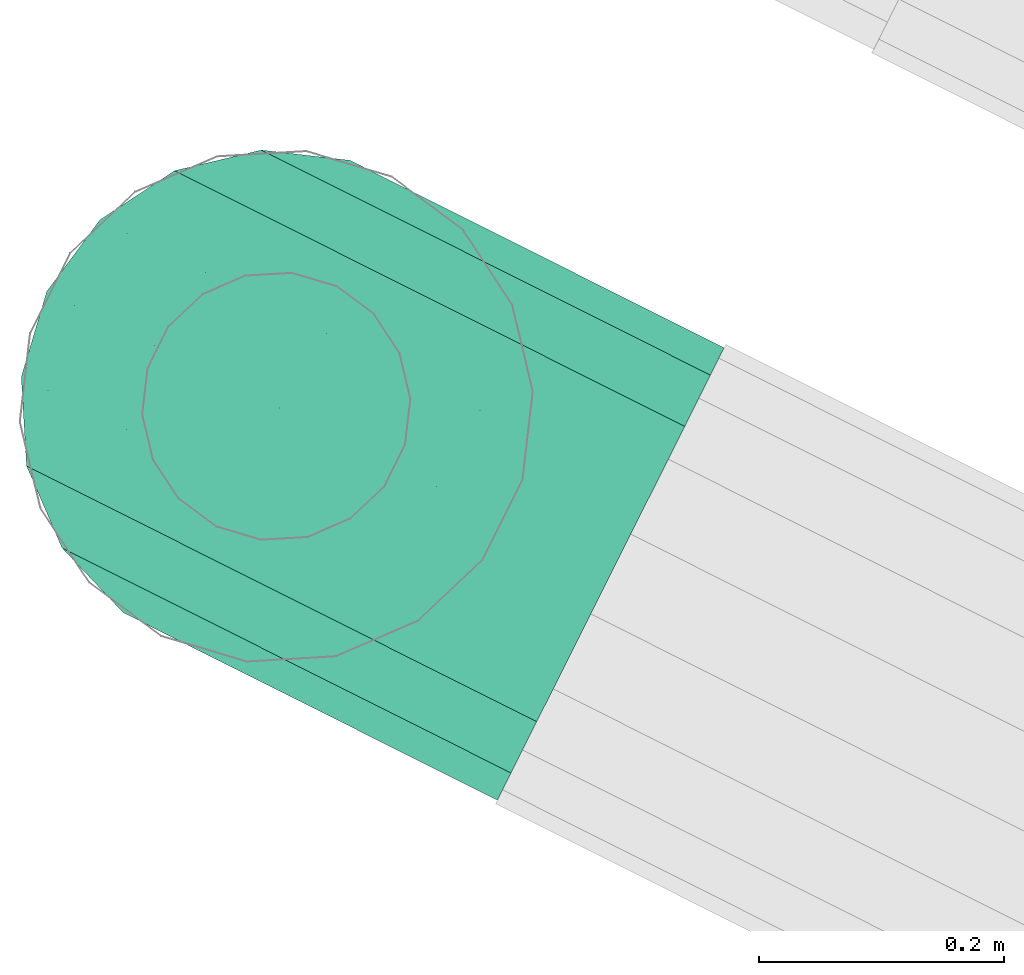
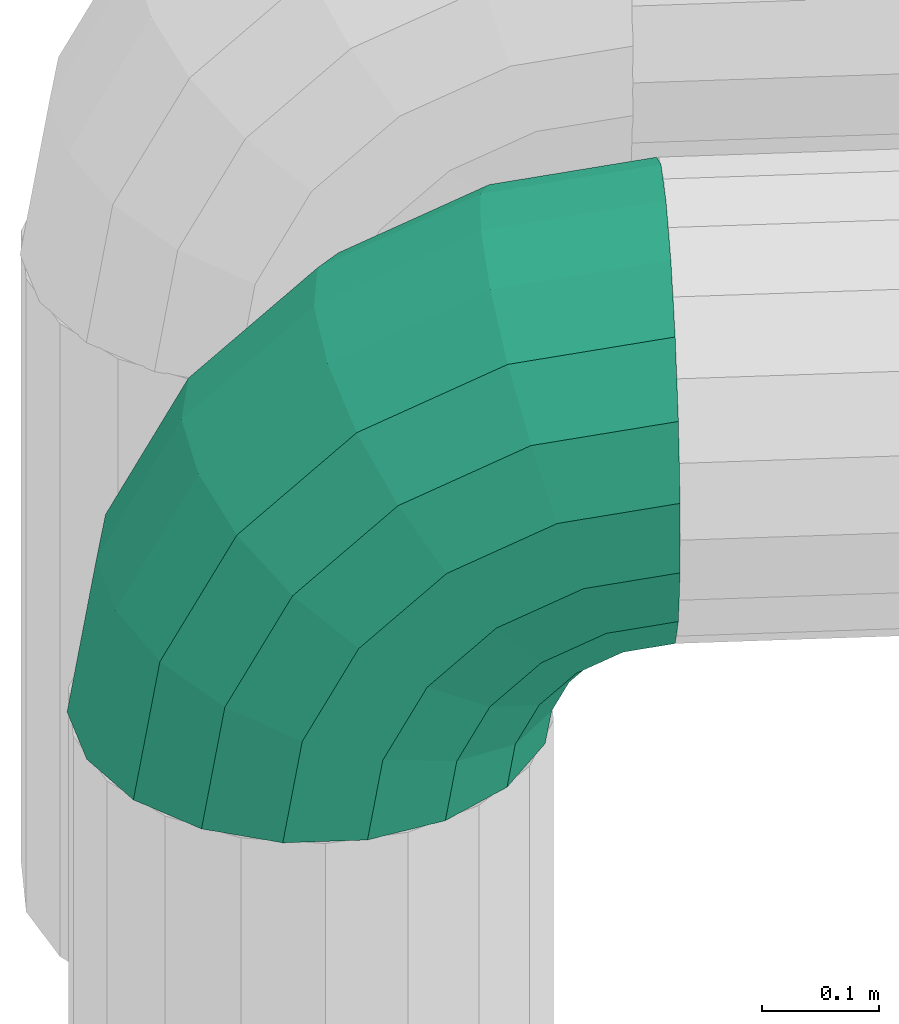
# One storey, part 166 of 206: 1 flow segment.
"""IFC2X3 building model written with IfcOpenShell, lengths in metres."""

from ifc_helpers import new_model, si_unit, derived_unit, direction, frame, origin, place, context, subcontext, project, spatial, face_set, surface_model, source, transform, mapped, material, type_object, type_shapes, element, save


model = new_model("IFC2X3")

# Units and contexts
model_context = context("Model", 3, precision=5.2338327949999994e-05, world=origin(), true_north=direction((0.0, 1.0)))
body_context = subcontext(model_context, "Body", "Model", "MODEL_VIEW")
ifc_project = project(units=[si_unit("LENGTHUNIT", "METRE"), si_unit("AREAUNIT", "SQUARE_METRE"), si_unit("VOLUMEUNIT", "CUBIC_METRE"), si_unit("MASSUNIT", "GRAM", prefix="KILO"), si_unit("PLANEANGLEUNIT", "RADIAN"), derived_unit("THERMALTRANSMITTANCEUNIT", [(si_unit("MASSUNIT", "GRAM", prefix="KILO"), 1), (si_unit("THERMODYNAMICTEMPERATUREUNIT", "KELVIN"), -1), (si_unit("TIMEUNIT", "SECOND"), -3)])], contexts=[model_context])

# Site, building, storey
site_placement = place(None, frame((0.0, 0.0, 0.0), z_axis=(0.0, 0.0, 1.0), x_axis=(0.8939966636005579, -0.4480736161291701, 0.0)))
site = spatial("IfcSite", under=ifc_project, at=site_placement, Name="Default", CompositionType="ELEMENT")
building_placement = place(site_placement, origin())
building = spatial("IfcBuilding", under=site, at=building_placement, CompositionType="ELEMENT")
storey_placement = place(building_placement, origin())
storey = spatial("IfcBuildingStorey", under=building, at=storey_placement, Name="Erdgeschoss", CompositionType="ELEMENT", Elevation=0.0)

# Flow segment
ifc_material = material(Name="IfcSurfaceStyle #9317")
distribution_element_type = type_object("IfcDistributionElementType", Name="Rohrbogen 277743:Rohrbogen 277743", material=ifc_material)
shared_shape = source(origin(), body_context, "Body", "SurfaceModel", [
    surface_model("IfcFaceBasedSurfaceModel", [(1.2212699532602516, 7.3272083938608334, 2.4273484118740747), (1.221269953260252, 7.3646767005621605, 2.4207417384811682), (1.09520853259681, 7.3646767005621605, 2.4007755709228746), (1.093166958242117, 7.3272083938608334, 2.407058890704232), (0.9814868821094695, 7.3646767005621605, 2.342831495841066), (0.9776035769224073, 7.3272083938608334, 2.3481764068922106), (0.8912368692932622, 7.3646767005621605, 2.2525814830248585), (0.8858919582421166, 7.327208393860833, 2.25646478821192), (0.8332927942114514, 7.364676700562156, 2.1388598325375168), (0.8270094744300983, 7.327208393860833, 2.1409014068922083), (0.813326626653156, 7.364676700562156, 2.0127984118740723), (0.8067199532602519, 7.327208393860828, 2.0127984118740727), (1.2212699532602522, 7.397625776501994, 2.4017185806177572), (1.1010870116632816, 7.397625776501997, 2.3826834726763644), (0.9926684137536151, 7.397625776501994, 2.327441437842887), (0.9066269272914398, 7.397625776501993, 2.2413999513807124), (0.8513848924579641, 7.397625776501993, 2.132981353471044), (0.83234978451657, 7.3976257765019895, 2.012798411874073), (1.2212699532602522, 7.422081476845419, 2.3725734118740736), (1.1100933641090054, 7.42208147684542, 2.354964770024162), (1.0097995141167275, 7.422081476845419, 2.3038625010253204), (0.9302058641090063, 7.422081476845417, 2.224268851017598), (0.879103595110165, 7.422081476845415, 2.12397500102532), (0.8614949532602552, 7.422081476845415, 2.0127984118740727), (1.2212699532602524, 7.435094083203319, 2.336821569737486), (1.1211412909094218, 7.435094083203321, 2.3209627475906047), (1.0308139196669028, 7.435094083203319, 2.2749386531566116), (0.9591297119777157, 7.435094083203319, 2.2032544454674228), (0.9131056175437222, 7.4350940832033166, 2.1129270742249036), (0.8972467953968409, 7.435094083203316, 2.0127984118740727), (1.2212699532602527, 7.435094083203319, 2.298775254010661), (1.1328982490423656, 7.43509408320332, 2.2847785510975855), (1.0531769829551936, 7.435094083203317, 2.2441585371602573), (0.9899098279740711, 7.435094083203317, 2.1808913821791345), (0.9492898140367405, 7.435094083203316, 2.101170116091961), (0.9352931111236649, 7.4350940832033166, 2.012798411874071), (1.2212699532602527, 7.422081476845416, 2.2630234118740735), (1.143946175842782, 7.422081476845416, 2.2507765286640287), (1.0741913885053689, 7.422081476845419, 2.2152346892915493), (1.0188336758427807, 7.422081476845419, 2.1598769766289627), (0.9832918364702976, 7.422081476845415, 2.090122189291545), (0.9710449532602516, 7.422081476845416, 2.0127984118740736), (1.2212699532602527, 7.397625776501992, 2.23387824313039), (1.1529525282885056, 7.397625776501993, 2.223057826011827), (1.0913224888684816, 7.397625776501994, 2.191655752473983), (1.0424126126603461, 7.39762577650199, 2.1427458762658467), (1.0110105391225, 7.397625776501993, 2.081115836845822), (1.0001901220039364, 7.3976257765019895, 2.012798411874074), (1.2212699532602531, 7.364676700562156, 2.2148550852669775), (1.158831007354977, 7.364676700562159, 2.2049657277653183), (1.1025040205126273, 7.364676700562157, 2.1762656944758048), (1.0578026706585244, 7.364676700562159, 2.131564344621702), (1.0291026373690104, 7.364676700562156, 2.07523735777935), (1.0192132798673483, 7.364676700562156, 2.012798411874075), (1.2212699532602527, 7.32720839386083, 2.2082484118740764), (1.1608725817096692, 7.327208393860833, 2.1986824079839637), (1.1063873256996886, 7.327208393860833, 2.1709207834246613), (1.0631475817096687, 7.327208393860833, 2.1276810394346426), (1.0353859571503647, 7.327208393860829, 2.0731957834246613), (1.025819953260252, 7.327208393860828, 2.012798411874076), (1.2212699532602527, 7.289740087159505, 2.2148550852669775), (1.1588310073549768, 7.289740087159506, 2.2049657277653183), (1.1025040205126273, 7.2897400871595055, 2.176265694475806), (1.0578026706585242, 7.289740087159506, 2.131564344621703), (1.0291026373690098, 7.289740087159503, 2.0752373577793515), (1.0192132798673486, 7.289740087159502, 2.012798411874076), (1.2212699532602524, 7.256791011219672, 2.2338782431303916), (1.1529525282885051, 7.256791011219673, 2.2230578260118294), (1.0913224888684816, 7.256791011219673, 2.191655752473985), (1.0424126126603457, 7.256791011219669, 2.14274587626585), (1.0110105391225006, 7.256791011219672, 2.081115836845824), (1.0001901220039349, 7.2567910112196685, 2.012798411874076), (1.2212699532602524, 7.232335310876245, 2.2630234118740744), (1.1439461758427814, 7.232335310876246, 2.2507765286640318), (1.0741913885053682, 7.2323353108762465, 2.215234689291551), (1.0188336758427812, 7.232335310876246, 2.159876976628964), (0.9832918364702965, 7.232335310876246, 2.0901221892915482), (0.9710449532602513, 7.232335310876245, 2.0127984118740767), (1.2212699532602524, 7.219322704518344, 2.2987752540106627), (1.132898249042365, 7.219322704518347, 2.2847785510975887), (1.053176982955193, 7.219322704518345, 2.2441585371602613), (0.9899098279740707, 7.219322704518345, 2.1808913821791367), (0.9492898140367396, 7.219322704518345, 2.1011701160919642), (0.9352931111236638, 7.219322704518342, 2.012798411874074), (1.2212699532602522, 7.219322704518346, 2.336821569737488), (1.1211412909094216, 7.219322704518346, 2.320962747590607), (1.0308139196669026, 7.219322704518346, 2.2749386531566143), (0.9591297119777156, 7.219322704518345, 2.203254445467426), (0.9131056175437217, 7.219322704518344, 2.1129270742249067), (0.8972467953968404, 7.2193227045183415, 2.0127984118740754), (1.2212699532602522, 7.2323353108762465, 2.3725734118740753), (1.1100933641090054, 7.232335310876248, 2.354964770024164), (1.0097995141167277, 7.232335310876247, 2.3038625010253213), (0.9302058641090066, 7.232335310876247, 2.2242688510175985), (0.8791035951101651, 7.232335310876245, 2.123975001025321), (0.8614949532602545, 7.232335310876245, 2.0127984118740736), (1.2212699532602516, 7.256791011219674, 2.401718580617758), (1.1010870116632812, 7.256791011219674, 2.3826834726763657), (0.9926684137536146, 7.256791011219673, 2.327441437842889), (0.9066269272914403, 7.256791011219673, 2.241399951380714), (0.8513848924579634, 7.256791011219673, 2.1329813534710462), (0.8323497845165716, 7.256791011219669, 2.012798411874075), (1.2212699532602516, 7.289740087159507, 2.420741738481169), (1.0952085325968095, 7.289740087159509, 2.4007755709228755), (0.9814868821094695, 7.289740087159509, 2.3428314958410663), (0.891236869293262, 7.289740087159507, 2.25258148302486), (0.8332927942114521, 7.289740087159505, 2.1388598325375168), (0.8133266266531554, 7.289740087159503, 2.0127984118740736), (1.221269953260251, 7.327208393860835, 2.5273484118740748), (1.2212699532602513, 7.398878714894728, 2.5147110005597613), (1.0661704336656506, 7.398878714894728, 2.490145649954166), (1.0622652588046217, 7.327208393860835, 2.5021645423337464), (0.9262531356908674, 7.398878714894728, 2.418854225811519), (0.9188250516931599, 7.327208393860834, 2.429078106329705), (0.8152141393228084, 7.398878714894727, 2.30781522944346), (0.8049902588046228, 7.3272083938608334, 2.315243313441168), (0.7439227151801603, 7.398878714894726, 2.167897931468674), (0.7319038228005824, 7.327208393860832, 2.1718031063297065), (0.7193573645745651, 7.398878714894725, 2.012798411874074), (0.7067199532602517, 7.327208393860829, 2.012798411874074), (1.2212699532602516, 7.461904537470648, 2.4783230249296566), (1.0774149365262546, 7.461904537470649, 2.4555386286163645), (0.9476414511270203, 7.461904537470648, 2.3894157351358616), (0.8446526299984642, 7.461904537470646, 2.2864269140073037), (0.7785297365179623, 7.461904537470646, 2.156653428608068), (0.7557453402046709, 7.461904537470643, 2.0127984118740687), (1.2212699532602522, 7.508684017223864, 2.4225734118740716), (1.0946425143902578, 7.508684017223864, 2.4025175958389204), (0.9804102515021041, 7.508684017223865, 2.344313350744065), (0.8897550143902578, 7.508684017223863, 2.25365811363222), (0.831550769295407, 7.508684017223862, 2.1394258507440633), (0.8114949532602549, 7.508684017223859, 2.0127984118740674), (1.2212699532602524, 7.53357485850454, 2.354186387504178), (1.1157752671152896, 7.533574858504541, 2.3374776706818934), (1.0206071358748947, 7.533574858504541, 2.2889870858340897), (0.9450812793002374, 7.533574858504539, 2.2134612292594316), (0.8965906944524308, 7.533574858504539, 2.1182930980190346), (0.8798819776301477, 7.533574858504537, 2.0127984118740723), (1.2212699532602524, 7.53357485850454, 2.2814104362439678), (1.1382642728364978, 7.533574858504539, 2.268263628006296), (1.0633837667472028, 7.53357485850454, 2.2301101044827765), (1.0039582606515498, 7.53357485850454, 2.1706845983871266), (0.9658047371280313, 7.5335748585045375, 2.095804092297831), (0.952657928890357, 7.533574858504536, 2.0127984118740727), (1.2212699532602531, 7.508684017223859, 2.2130234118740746), (1.159397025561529, 7.508684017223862, 2.203223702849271), (1.1035806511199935, 7.508684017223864, 2.174783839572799), (1.0592845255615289, 7.508684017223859, 2.130487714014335), (1.0308446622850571, 7.508684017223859, 2.0746713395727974), (1.021044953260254, 7.508684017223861, 2.012798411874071), (1.2212699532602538, 7.461904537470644, 2.1572737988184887), (1.1766246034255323, 7.461904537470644, 2.150202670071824), (1.1363494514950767, 7.461904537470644, 2.129681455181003), (1.1043869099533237, 7.461904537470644, 2.0977189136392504), (1.0838656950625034, 7.461904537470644, 2.0574437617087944), (1.0767945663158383, 7.461904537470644, 2.0127984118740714), (1.2212699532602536, 7.398878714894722, 2.1208858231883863), (1.1878691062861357, 7.3988787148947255, 2.115595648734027), (1.15773776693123, 7.398878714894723, 2.1002429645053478), (1.1338254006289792, 7.398878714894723, 2.076330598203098), (1.118472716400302, 7.398878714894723, 2.046199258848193), (1.1131825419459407, 7.398878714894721, 2.0127984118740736), (1.2212699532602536, 7.327208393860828, 2.108248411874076), (1.1917742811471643, 7.32720839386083, 2.103576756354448), (1.1651658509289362, 7.32720839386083, 2.090019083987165), (1.1440492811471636, 7.327208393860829, 2.0689025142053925), (1.1304916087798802, 7.32720839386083, 2.0422940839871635), (1.1258199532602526, 7.327208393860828, 2.0127984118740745), (1.2212699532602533, 7.255538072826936, 2.1208858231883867), (1.1878691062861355, 7.255538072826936, 2.1155956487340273), (1.157737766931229, 7.255538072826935, 2.10024296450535), (1.133825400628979, 7.255538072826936, 2.0763305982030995), (1.1184727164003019, 7.255538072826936, 2.0461992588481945), (1.1131825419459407, 7.255538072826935, 2.012798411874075), (1.2212699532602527, 7.192512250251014, 2.1572737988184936), (1.1766246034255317, 7.192512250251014, 2.1502026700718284), (1.1363494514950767, 7.192512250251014, 2.129681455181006), (1.1043869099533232, 7.192512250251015, 2.0977189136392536), (1.0838656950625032, 7.192512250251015, 2.0574437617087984), (1.0767945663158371, 7.192512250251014, 2.0127984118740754), (1.2212699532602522, 7.145732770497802, 2.2130234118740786), (1.1593970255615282, 7.145732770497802, 2.2032237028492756), (1.1035806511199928, 7.145732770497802, 2.174783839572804), (1.0592845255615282, 7.1457327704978, 2.1304877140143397), (1.030844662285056, 7.1457327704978, 2.0746713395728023), (1.0210449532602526, 7.1457327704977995, 2.012798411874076), (1.221269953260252, 7.1208419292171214, 2.281410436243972), (1.1382642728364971, 7.120841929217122, 2.2682636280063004), (1.063383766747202, 7.120841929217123, 2.230110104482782), (1.003958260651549, 7.120841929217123, 2.170684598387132), (0.9658047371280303, 7.1208419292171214, 2.095804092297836), (0.9526579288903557, 7.1208419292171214, 2.0127984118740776), (1.2212699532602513, 7.120841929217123, 2.3541863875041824), (1.1157752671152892, 7.120841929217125, 2.337477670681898), (1.0206071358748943, 7.120841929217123, 2.288987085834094), (0.9450812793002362, 7.120841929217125, 2.213461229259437), (0.8965906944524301, 7.120841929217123, 2.1182930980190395), (0.8798819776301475, 7.120841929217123, 2.012798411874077), (1.2212699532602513, 7.145732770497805, 2.422573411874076), (1.094642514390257, 7.145732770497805, 2.4025175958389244), (0.9804102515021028, 7.145732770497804, 2.3443133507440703), (0.8897550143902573, 7.145732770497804, 2.2536581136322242), (0.8315507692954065, 7.1457327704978, 2.1394258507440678), (0.8114949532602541, 7.1457327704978, 2.012798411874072), (1.2212699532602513, 7.19251225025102, 2.4783230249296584), (1.0774149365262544, 7.192512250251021, 2.4555386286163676), (0.9476414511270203, 7.19251225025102, 2.3894157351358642), (0.8446526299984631, 7.192512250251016, 2.286426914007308), (0.7785297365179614, 7.192512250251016, 2.1566534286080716), (0.755745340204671, 7.192512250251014, 2.0127984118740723), (1.221269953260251, 7.2555380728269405, 2.514711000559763), (1.0661704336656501, 7.2555380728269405, 2.4901456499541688), (0.9262531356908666, 7.2555380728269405, 2.4188542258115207), (0.8152141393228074, 7.25553807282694, 2.3078152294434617), (0.7439227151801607, 7.255538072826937, 2.1678979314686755), (0.7193573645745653, 7.255538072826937, 2.0127984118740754)], [face_set([[[0, 1, 2, 3]], [[3, 2, 4, 5]], [[5, 4, 6, 7]], [[7, 6, 8, 9]], [[9, 8, 10, 11]], [[1, 12, 13, 2]], [[2, 13, 14, 4]], [[4, 14, 15, 6]], [[6, 15, 16, 8]], [[8, 16, 17, 10]], [[12, 18, 19, 13]], [[13, 19, 20, 14]], [[14, 20, 21, 15]], [[15, 21, 22, 16]], [[16, 22, 23, 17]], [[18, 24, 25, 19]], [[19, 25, 26, 20]], [[20, 26, 27, 21]], [[21, 27, 28, 22]], [[22, 28, 29, 23]], [[24, 30, 31, 25]], [[25, 31, 32, 26]], [[26, 32, 33, 27]], [[27, 33, 34, 28]], [[28, 34, 35, 29]], [[30, 36, 37, 31]], [[31, 37, 38, 32]], [[32, 38, 39, 33]], [[33, 39, 40, 34]], [[34, 40, 41, 35]], [[36, 42, 43, 37]], [[37, 43, 44, 38]], [[38, 44, 45, 39]], [[39, 45, 46, 40]], [[40, 46, 47, 41]], [[42, 48, 49, 43]], [[43, 49, 50, 44]], [[44, 50, 51, 45]], [[45, 51, 52, 46]], [[46, 52, 53, 47]], [[48, 54, 55, 49]], [[49, 55, 56, 50]], [[50, 56, 57, 51]], [[51, 57, 58, 52]], [[52, 58, 59, 53]], [[54, 60, 61, 55]], [[55, 61, 62, 56]], [[56, 62, 63, 57]], [[57, 63, 64, 58]], [[58, 64, 65, 59]], [[60, 66, 67, 61]], [[61, 67, 68, 62]], [[62, 68, 69, 63]], [[63, 69, 70, 64]], [[64, 70, 71, 65]], [[66, 72, 73, 67]], [[67, 73, 74, 68]], [[68, 74, 75, 69]], [[69, 75, 76, 70]], [[70, 76, 77, 71]], [[72, 78, 79, 73]], [[73, 79, 80, 74]], [[74, 80, 81, 75]], [[75, 81, 82, 76]], [[76, 82, 83, 77]], [[78, 84, 85, 79]], [[79, 85, 86, 80]], [[80, 86, 87, 81]], [[81, 87, 88, 82]], [[82, 88, 89, 83]], [[84, 90, 91, 85]], [[85, 91, 92, 86]], [[86, 92, 93, 87]], [[87, 93, 94, 88]], [[88, 94, 95, 89]], [[90, 96, 97, 91]], [[91, 97, 98, 92]], [[92, 98, 99, 93]], [[93, 99, 100, 94]], [[94, 100, 101, 95]], [[96, 102, 103, 97]], [[97, 103, 104, 98]], [[98, 104, 105, 99]], [[99, 105, 106, 100]], [[100, 106, 107, 101]], [[102, 0, 3, 103]], [[103, 3, 5, 104]], [[104, 5, 7, 105]], [[105, 7, 9, 106]], [[106, 9, 11, 107]], [[108, 109, 110, 111]], [[111, 110, 112, 113]], [[113, 112, 114, 115]], [[115, 114, 116, 117]], [[117, 116, 118, 119]], [[109, 120, 121, 110]], [[110, 121, 122, 112]], [[112, 122, 123, 114]], [[114, 123, 124, 116]], [[116, 124, 125, 118]], [[120, 126, 127, 121]], [[121, 127, 128, 122]], [[122, 128, 129, 123]], [[123, 129, 130, 124]], [[124, 130, 131, 125]], [[126, 132, 133, 127]], [[127, 133, 134, 128]], [[128, 134, 135, 129]], [[129, 135, 136, 130]], [[130, 136, 137, 131]], [[132, 138, 139, 133]], [[133, 139, 140, 134]], [[134, 140, 141, 135]], [[135, 141, 142, 136]], [[136, 142, 143, 137]], [[138, 144, 145, 139]], [[139, 145, 146, 140]], [[140, 146, 147, 141]], [[141, 147, 148, 142]], [[142, 148, 149, 143]], [[144, 150, 151, 145]], [[145, 151, 152, 146]], [[146, 152, 153, 147]], [[147, 153, 154, 148]], [[148, 154, 155, 149]], [[150, 156, 157, 151]], [[151, 157, 158, 152]], [[152, 158, 159, 153]], [[153, 159, 160, 154]], [[154, 160, 161, 155]], [[156, 162, 163, 157]], [[157, 163, 164, 158]], [[158, 164, 165, 159]], [[159, 165, 166, 160]], [[160, 166, 167, 161]], [[162, 168, 169, 163]], [[163, 169, 170, 164]], [[164, 170, 171, 165]], [[165, 171, 172, 166]], [[166, 172, 173, 167]], [[168, 174, 175, 169]], [[169, 175, 176, 170]], [[170, 176, 177, 171]], [[171, 177, 178, 172]], [[172, 178, 179, 173]], [[174, 180, 181, 175]], [[175, 181, 182, 176]], [[176, 182, 183, 177]], [[177, 183, 184, 178]], [[178, 184, 185, 179]], [[180, 186, 187, 181]], [[181, 187, 188, 182]], [[182, 188, 189, 183]], [[183, 189, 190, 184]], [[184, 190, 191, 185]], [[186, 192, 193, 187]], [[187, 193, 194, 188]], [[188, 194, 195, 189]], [[189, 195, 196, 190]], [[190, 196, 197, 191]], [[192, 198, 199, 193]], [[193, 199, 200, 194]], [[194, 200, 201, 195]], [[195, 201, 202, 196]], [[196, 202, 203, 197]], [[198, 204, 205, 199]], [[199, 205, 206, 200]], [[200, 206, 207, 201]], [[201, 207, 208, 202]], [[202, 208, 209, 203]], [[204, 210, 211, 205]], [[205, 211, 212, 206]], [[206, 212, 213, 207]], [[207, 213, 214, 208]], [[208, 214, 215, 209]], [[210, 108, 111, 211]], [[211, 111, 113, 212]], [[212, 113, 115, 213]], [[213, 115, 117, 214]], [[214, 117, 119, 215]]])]),
])
type_shapes(distribution_element_type, [shared_shape])
flow_segment_placement = place(storey_placement, origin())
element("IfcFlowSegment", 1, at=flow_segment_placement, inside=storey, type_object=distribution_element_type, material=ifc_material, Name="Rohrbogen", ObjectType="Rohrbogen", context=body_context, shape_type="MappedRepresentation", body=[
    mapped(shared_shape, transform((0.0, 0.0, 0.0), scale=1.0)),
])

save(model, "model.ifc")
